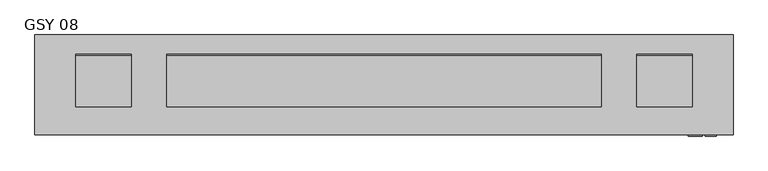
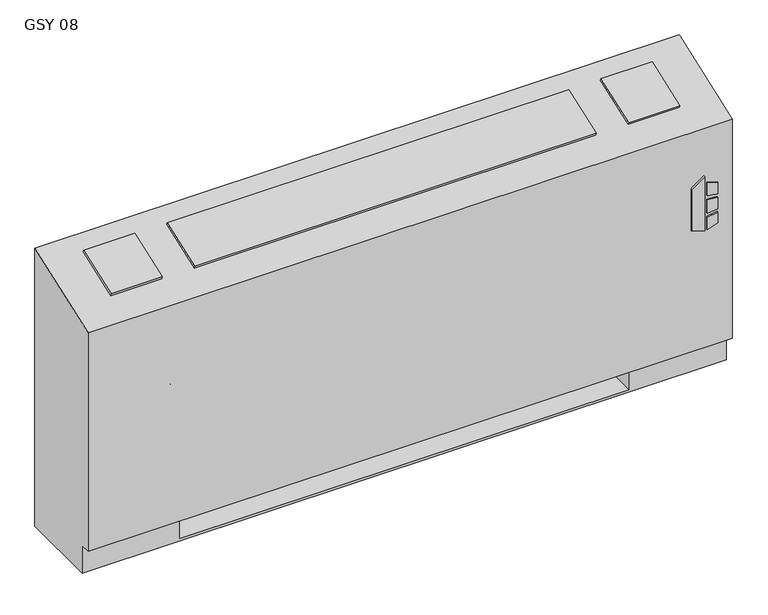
"""IFC4 building model written with IfcOpenShell, lengths in millimetres: proxy geometry, Vertical_Fan_Coil_Unit_-_GSY_-_IEC_-_2-Pipe_TS-FR_LH_2022 : GSY 08."""

from ifc_helpers import new_model, si_unit, point, frame, frame_2d, origin, place, context, project, spatial, polyline, circle_curve, trimmed, segment, composite_curve, outline, extrude, source, transform, mapped, element, save
from ifc_brep_helpers import plane_surface, revolved_surface, advanced_brep


def gsy_08_a798d953(model_context):
    return source(origin(), model_context, "Body", "SolidModel", [
        extrude(outline(polyline([(391.6086829, 849.3868862), (381.6606126, 881.5602728), (523.831537, 881.5602728), (500.8095309, 849.3868862), (391.6086829, 849.3868862)])), frame((0.0, 12.7, 0.0), z_axis=(0.0, 1.0, 0.0), x_axis=(0.0, 0.0, 1.0)), (0.0, 0.0, 1.0), 3.175),
        extrude(outline(polyline([(470.6079683, 888.3186058), (467.4055757, 914.4), (496.6344168, 914.4), (504.6988318, 888.3186058), (470.6079683, 888.3186058)])), frame((0.0, 12.7, 0.0), z_axis=(0.0, 1.0, 0.0), x_axis=(0.0, 0.0, 1.0)), (0.0, 0.0, 1.0), 3.175),
        extrude(outline(polyline([(418.7444414, 914.4), (415.0789404, 888.3186058), (381.6606126, 888.3186058), (390.2948498, 914.4), (418.7444414, 914.4)])), frame((0.0, 12.7, 0.0), z_axis=(0.0, 1.0, 0.0), x_axis=(0.0, 0.0, 1.0)), (0.0, 0.0, 1.0), 3.175),
        extrude(outline(polyline([(458.0596028, 914.4), (460.3414292, 888.3186058), (424.4038806, 888.3186058), (427.1451456, 914.4), (458.0596028, 914.4)])), frame((0.0, 12.7, 0.0), z_axis=(0.0, 1.0, 0.0), x_axis=(0.0, 0.0, 1.0)), (0.0, 0.0, 1.0), 3.175),
        extrude(outline(polyline([(0.0, -126.2347031), (0.0, 0.0), (127.0, 0.0), (127.0, -126.2347031), (0.0, -126.2347031)])), frame((-553.593, 200.4217127, 714.3418685), z_axis=(0.0, -0.33964446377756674, 0.9405538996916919), x_axis=(1.0, 0.0, 0.0)), (0.0, 0.0, 1.0), 6.35),
        extrude(outline(polyline([(0.0, -126.2347031), (0.0, 0.0), (996.95, 0.0), (996.95, -126.2347031), (0.0, -126.2347031)])), frame((650.875, 81.6911704, 671.4669504), z_axis=(0.0, -0.3396444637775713, 0.9405538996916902), x_axis=(-1.0, 0.0, 0.0)), (0.0, 0.0, 1.0), 6.35),
        extrude(outline(polyline([(0.0, -126.2347031), (0.0, 0.0), (127.0, 0.0), (127.0, -126.2347031), (0.0, -126.2347031)])), frame((858.393, 81.6911704, 671.4669504), z_axis=(0.0, -0.3396444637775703, 0.9405538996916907), x_axis=(-1.0, 0.0, 0.0)), (0.0, 0.0, 1.0), 6.35),
        extrude(outline(polyline([(711.2, 81.534), (711.2, 223.266), (831.85, 223.266), (831.85, 81.534), (711.2, 81.534)])), frame((0.0, 0.0, 327.025), z_axis=(0.0, 0.0, 1.0), x_axis=(1.0, 0.0, 0.0)), (0.0, 0.0, 1.0), 260.35),
        extrude(outline(composite_curve([segment(trimmed(circle_curve(frame_2d((80.645, 397.002)), 7.9375), [point((80.645, 404.9395))], [point((80.645, 389.0645))], False, "CARTESIAN"), True, "CONTINUOUS"), segment(trimmed(circle_curve(frame_2d((80.645, 397.002)), 7.9375), [point((80.645, 389.0645))], [point((80.645, 404.9395))], False, "CARTESIAN"), True, "CONTINUOUS")], self_intersect=False)), frame((-457.2, 0.0, 0.0), z_axis=(1.0, 0.0, 0.0), x_axis=(0.0, 1.0, 0.0)), (0.0, 0.0, 1.0), 50.8),
        extrude(outline(composite_curve([segment(trimmed(circle_curve(frame_2d((156.8958, 535.8892)), 7.9375), [point((156.8958, 543.8267))], [point((156.8958, 527.9517))], False, "CARTESIAN"), True, "CONTINUOUS"), segment(trimmed(circle_curve(frame_2d((156.8958, 535.8892)), 7.9375), [point((156.8958, 527.9517))], [point((156.8958, 543.8267))], False, "CARTESIAN"), True, "CONTINUOUS")], self_intersect=False)), frame((-457.2, 0.0, 0.0), z_axis=(1.0, 0.0, 0.0), x_axis=(0.0, 1.0, 0.0)), (0.0, 0.0, 1.0), 50.8),
        advanced_brep(
        [(-647.7, 244.475, 0.0), (952.5, 244.475, 0.0), (952.5, 41.275, 0.0), (-647.7, 41.275, 0.0), (-647.7, 244.475, 730.25), (952.5, 244.475, 730.25), (711.2, 244.475, 73.025), (939.8, 244.475, 73.025), (939.8, 244.475, 654.05), (711.2, 244.475, 654.05), (711.2, 244.475, 414.8650565), (739.775, 244.475, 414.8650565), (739.775, 244.475, 385.2349435), (711.2, 244.475, 385.2349435), (711.2, 244.475, 287.3375), (739.775, 244.475, 287.3375), (739.775, 244.475, 258.7625), (711.2, 244.475, 258.7625), (711.2, 244.475, 141.2875), (739.775, 244.475, 141.2875), (739.775, 244.475, 112.7125), (711.2, 244.475, 112.7125), (-406.4, 244.475, 654.05), (-635.0, 244.475, 654.05), (-635.0, 244.475, 73.025), (-406.4, 244.475, 73.025), (-406.4, 244.475, 112.7125), (-434.975, 244.475, 112.7125), (-434.975, 244.475, 141.2875), (-406.4, 244.475, 141.2875), (-406.4, 244.475, 258.7625), (-434.975, 244.475, 258.7625), (-434.975, 244.475, 287.3375), (-406.4, 244.475, 287.3375), (-406.4, 244.475, 385.2349435), (-434.975, 244.475, 385.2349435), (-434.975, 244.475, 414.8650565), (-406.4, 244.475, 414.8650565), (729.4626, 244.475, 127.0), (718.3374, 244.475, 127.0), (729.4626, 244.475, 400.05), (718.3374, 244.475, 400.05), (729.4626, 244.475, 273.05), (718.3374, 244.475, 273.05), (-413.5374, 244.475, 127.0), (-424.6626, 244.475, 127.0), (-413.5374, 244.475, 273.05), (-424.6626, 244.475, 273.05), (-413.5374, 244.475, 400.05), (-424.6626, 244.475, 400.05), (-647.7, 41.275, 73.025), (-647.7, 15.875, 73.025), (-647.7, 15.875, 647.7), (952.5, 15.875, 73.025), (952.5, 15.875, 647.7), (952.5, 41.275, 73.025), (-406.4, 41.275, 73.025), (-406.4, 225.425, 73.025), (711.2, 225.425, 73.025), (711.2, 41.275, 73.025), (711.2, 41.275, 6.35), (-406.4, 41.275, 6.35), (711.2, 41.275, 654.05), (939.8, 41.275, 654.05), (939.8, 41.275, 73.025), (711.2, 41.275, 73.025), (-406.4, 41.275, 654.05), (-406.4, 41.275, 73.025), (-635.0, 41.275, 73.025), (-635.0, 41.275, 654.05), (711.2, 225.425, 73.025), (711.2, 238.125, 112.7125), (711.2, 238.125, 141.2875), (711.2, 238.125, 258.7625), (711.2, 238.125, 287.3375), (711.2, 238.125, 385.2349435), (711.2, 238.125, 414.8650565), (-406.4, 225.425, 73.025), (-406.4, 238.125, 414.8650565), (-406.4, 238.125, 385.2349435), (-406.4, 238.125, 287.3375), (-406.4, 238.125, 258.7625), (-406.4, 238.125, 141.2875), (-406.4, 238.125, 112.7125), (-406.4, 225.425, 6.35), (711.2, 225.425, 6.35), (739.775, 238.125, 112.7125), (739.775, 238.125, 141.2875), (718.3374, 238.125, 127.0), (729.4626, 238.125, 127.0), (739.775, 238.125, 258.7625), (739.775, 238.125, 287.3375), (718.3374, 238.125, 273.05), (729.4626, 238.125, 273.05), (739.775, 238.125, 385.2349435), (739.775, 238.125, 414.8650565), (718.3374, 238.125, 400.05), (729.4626, 238.125, 400.05), (-434.975, 238.125, 141.2875), (-434.975, 238.125, 112.7125), (-424.6626, 238.125, 127.0), (-413.5374, 238.125, 127.0), (-434.975, 238.125, 287.3375), (-434.975, 238.125, 258.7625), (-424.6626, 238.125, 273.05), (-413.5374, 238.125, 273.05), (-434.975, 238.125, 414.8650565), (-434.975, 238.125, 385.2349435), (-424.6626, 238.125, 400.05), (-413.5374, 238.125, 400.05)],
        [
            (0, 1),
            (1, 2),
            (2, 3),
            (3, 0),
            (0, 4),
            (4, 5),
            (5, 1),
            (6, 7),
            (7, 8),
            (8, 9),
            (9, 10),
            (10, 11),
            (11, 12),
            (12, 13),
            (13, 14),
            (14, 15),
            (15, 16),
            (16, 17),
            (17, 18),
            (18, 19),
            (19, 20),
            (20, 21),
            (21, 6),
            (22, 23),
            (23, 24),
            (24, 25),
            (25, 26),
            (26, 27),
            (27, 28),
            (28, 29),
            (29, 30),
            (30, 31),
            (31, 32),
            (32, 33),
            (33, 34),
            (34, 35),
            (35, 36),
            (36, 37),
            (37, 22),
            (38, 39, circle_curve(frame((723.9, 244.475, 127.0), z_axis=(0.0, -1.0, 0.0), x_axis=(-1.0, 0.0, 0.0)), 5.5626)),
            (39, 38, circle_curve(frame((723.9, 244.475, 127.0), z_axis=(0.0, -1.0, 0.0), x_axis=(-1.0, 0.0, 0.0)), 5.5626)),
            (40, 41, circle_curve(frame((723.9, 244.475, 400.05), z_axis=(0.0, -1.0, 0.0), x_axis=(-1.0, 0.0, 0.0)), 5.5626)),
            (41, 40, circle_curve(frame((723.9, 244.475, 400.05), z_axis=(0.0, -1.0, 0.0), x_axis=(-1.0, 0.0, 0.0)), 5.5626)),
            (42, 43, circle_curve(frame((723.9, 244.475, 273.05), z_axis=(0.0, -1.0, 0.0), x_axis=(-1.0, 0.0, 0.0)), 5.5626)),
            (43, 42, circle_curve(frame((723.9, 244.475, 273.05), z_axis=(0.0, -1.0, 0.0), x_axis=(-1.0, 0.0, 0.0)), 5.5626)),
            (44, 45, circle_curve(frame((-419.1, 244.475, 127.0), z_axis=(0.0, -1.0, 0.0), x_axis=(-1.0, 0.0, 0.0)), 5.5626)),
            (45, 44, circle_curve(frame((-419.1, 244.475, 127.0), z_axis=(0.0, -1.0, 0.0), x_axis=(-1.0, 0.0, 0.0)), 5.5626)),
            (46, 47, circle_curve(frame((-419.1, 244.475, 273.05), z_axis=(0.0, -1.0, 0.0), x_axis=(-1.0, 0.0, 0.0)), 5.5626)),
            (47, 46, circle_curve(frame((-419.1, 244.475, 273.05), z_axis=(0.0, -1.0, 0.0), x_axis=(-1.0, 0.0, 0.0)), 5.5626)),
            (48, 49, circle_curve(frame((-419.1, 244.475, 400.05), z_axis=(0.0, -1.0, 0.0), x_axis=(-1.0, 0.0, 0.0)), 5.5626)),
            (49, 48, circle_curve(frame((-419.1, 244.475, 400.05), z_axis=(0.0, -1.0, 0.0), x_axis=(-1.0, 0.0, 0.0)), 5.5626)),
            (3, 50),
            (50, 51),
            (51, 52),
            (52, 4),
            (51, 53),
            (53, 54),
            (54, 52),
            (5, 54),
            (53, 55),
            (55, 2),
            (50, 56),
            (56, 57),
            (57, 58),
            (58, 59),
            (59, 55),
            (59, 60),
            (60, 61),
            (61, 56),
            (62, 63),
            (63, 64),
            (64, 65),
            (65, 62),
            (66, 67),
            (67, 68),
            (68, 69),
            (69, 66),
            (65, 70),
            (70, 6),
            (21, 71),
            (71, 72),
            (72, 18),
            (17, 73),
            (73, 74),
            (74, 14),
            (13, 75),
            (75, 76),
            (76, 10),
            (9, 62),
            (64, 7),
            (63, 8),
            (69, 23),
            (22, 66),
            (68, 24),
            (67, 77),
            (77, 25),
            (37, 78),
            (78, 79),
            (79, 34),
            (33, 80),
            (80, 81),
            (81, 30),
            (29, 82),
            (82, 83),
            (83, 26),
            (57, 84),
            (84, 85),
            (85, 58),
            (85, 60),
            (84, 61),
            (71, 86),
            (86, 87),
            (87, 72),
            (88, 89, circle_curve(frame((723.9, 238.125, 127.0), z_axis=(0.0, 1.0, 0.0), x_axis=(-1.0, 0.0, 0.0)), 5.5626)),
            (89, 88, circle_curve(frame((723.9, 238.125, 127.0), z_axis=(0.0, 1.0, 0.0), x_axis=(-1.0, 0.0, 0.0)), 5.5626)),
            (73, 90),
            (90, 91),
            (91, 74),
            (92, 93, circle_curve(frame((723.9, 238.125, 273.05), z_axis=(0.0, 1.0, 0.0), x_axis=(-1.0, 0.0, 0.0)), 5.5626)),
            (93, 92, circle_curve(frame((723.9, 238.125, 273.05), z_axis=(0.0, 1.0, 0.0), x_axis=(-1.0, 0.0, 0.0)), 5.5626)),
            (75, 94),
            (94, 95),
            (95, 76),
            (96, 97, circle_curve(frame((723.9, 238.125, 400.05), z_axis=(0.0, 1.0, 0.0), x_axis=(-1.0, 0.0, 0.0)), 5.5626)),
            (97, 96, circle_curve(frame((723.9, 238.125, 400.05), z_axis=(0.0, 1.0, 0.0), x_axis=(-1.0, 0.0, 0.0)), 5.5626)),
            (98, 99),
            (99, 83),
            (82, 98),
            (100, 101, circle_curve(frame((-419.1, 238.125, 127.0), z_axis=(0.0, 1.0, 0.0), x_axis=(-1.0, 0.0, 0.0)), 5.5626)),
            (101, 100, circle_curve(frame((-419.1, 238.125, 127.0), z_axis=(0.0, 1.0, 0.0), x_axis=(-1.0, 0.0, 0.0)), 5.5626)),
            (102, 103),
            (103, 81),
            (80, 102),
            (104, 105, circle_curve(frame((-419.1, 238.125, 273.05), z_axis=(0.0, 1.0, 0.0), x_axis=(-1.0, 0.0, 0.0)), 5.5626)),
            (105, 104, circle_curve(frame((-419.1, 238.125, 273.05), z_axis=(0.0, 1.0, 0.0), x_axis=(-1.0, 0.0, 0.0)), 5.5626)),
            (106, 107),
            (107, 79),
            (78, 106),
            (108, 109, circle_curve(frame((-419.1, 238.125, 400.05), z_axis=(0.0, 1.0, 0.0), x_axis=(-1.0, 0.0, 0.0)), 5.5626)),
            (109, 108, circle_curve(frame((-419.1, 238.125, 400.05), z_axis=(0.0, 1.0, 0.0), x_axis=(-1.0, 0.0, 0.0)), 5.5626)),
            (87, 19),
            (86, 20),
            (91, 15),
            (90, 16),
            (95, 11),
            (94, 12),
            (28, 98),
            (99, 27),
            (32, 102),
            (103, 31),
            (36, 106),
            (107, 35),
            (88, 39),
            (38, 89),
            (96, 41),
            (40, 97),
            (92, 43),
            (42, 93),
            (100, 45),
            (44, 101),
            (104, 47),
            (46, 105),
            (108, 49),
            (48, 109),
        ],
        [
            plane_surface(frame((-647.7, 244.475, 0.0), z_axis=(0.0, 0.0, -1.0), x_axis=(1.0, 0.0, 0.0))),
            plane_surface(frame((952.5, 244.475, 730.25), z_axis=(0.0, 1.0, 0.0), x_axis=(0.0, 0.0, -1.0))),
            plane_surface(frame((-647.7, 244.475, 730.25), z_axis=(-1.0, 0.0, 0.0), x_axis=(0.0, 0.0, -1.0))),
            plane_surface(frame((-647.7, 15.875, 730.25), z_axis=(0.0, -1.0, 0.0), x_axis=(0.0, 0.0, -1.0))),
            plane_surface(frame((952.5, 15.875, 730.25), z_axis=(1.0, 0.0, 0.0), x_axis=(0.0, 0.0, -1.0))),
            plane_surface(frame((-647.7, 15.875, 73.025), z_axis=(0.0, 0.0, -1.0), x_axis=(1.0, 0.0, 0.0))),
            plane_surface(frame((-647.7, 41.275, 73.025), z_axis=(0.0, -1.0, 0.0), x_axis=(1.0, 0.0, 0.0))),
            plane_surface(frame((711.2, 41.275, 654.05), z_axis=(0.0, 1.0, 0.0), x_axis=(0.0, 0.0, -1.0))),
            plane_surface(frame((711.2, 41.275, 654.05), z_axis=(1.0, 0.0, 0.0), x_axis=(0.0, 1.0, 0.0))),
            plane_surface(frame((711.2, 41.275, 73.025), z_axis=(0.0, 0.0, 1.0), x_axis=(0.0, 1.0, 0.0))),
            plane_surface(frame((939.8, 41.275, 73.025), z_axis=(-1.0, 0.0, 0.0), x_axis=(0.0, 1.0, 0.0))),
            plane_surface(frame((939.8, 41.275, 654.05), z_axis=(0.0, 0.0, -1.0), x_axis=(0.0, 1.0, 0.0))),
            plane_surface(frame((-406.4, 41.275, 654.05), z_axis=(0.0, 0.0, -1.0), x_axis=(0.0, 1.0, 0.0))),
            plane_surface(frame((-635.0, 41.275, 654.05), z_axis=(1.0, 0.0, 0.0), x_axis=(0.0, 1.0, 0.0))),
            plane_surface(frame((-635.0, 41.275, 73.025), z_axis=(0.0, 0.0, 1.0), x_axis=(0.0, 1.0, 0.0))),
            plane_surface(frame((-406.4, 41.275, 73.025), z_axis=(-1.0, 0.0, 0.0), x_axis=(0.0, 1.0, 0.0))),
            plane_surface(frame((711.2, 225.425, 73.025), z_axis=(0.0, -1.0, 0.0), x_axis=(0.0, 0.0, -1.0))),
            plane_surface(frame((711.2, 225.425, 73.025), z_axis=(-1.0, 0.0, 0.0), x_axis=(0.0, -1.0, 0.0))),
            plane_surface(frame((711.2, 225.425, 6.35), z_axis=(0.0, 0.0, 1.0), x_axis=(0.0, -1.0, 0.0))),
            plane_surface(frame((-406.4, 225.425, 6.35), z_axis=(1.0, 0.0, 0.0), x_axis=(0.0, -1.0, 0.0))),
            plane_surface(frame((739.775, 238.125, 141.2875), z_axis=(0.0, -1.0, 0.0), x_axis=(-1.0, 0.0, 0.0))),
            plane_surface(frame((711.2, 244.475, 141.2875), z_axis=(0.0, 0.0, 1.0), x_axis=(0.0, -1.0, 0.0))),
            plane_surface(frame((739.775, 244.475, 141.2875), z_axis=(1.0, 0.0, 0.0), x_axis=(0.0, -1.0, 0.0))),
            plane_surface(frame((739.775, 244.475, 112.7125), z_axis=(0.0, 0.0, -1.0), x_axis=(0.0, -1.0, 0.0))),
            plane_surface(frame((711.2, 244.475, 287.3375), z_axis=(0.0, 0.0, 1.0), x_axis=(0.0, -1.0, 0.0))),
            plane_surface(frame((739.775, 244.475, 287.3375), z_axis=(1.0, 0.0, 0.0), x_axis=(0.0, -1.0, 0.0))),
            plane_surface(frame((739.775, 244.475, 258.7625), z_axis=(0.0, 0.0, -1.0), x_axis=(0.0, -1.0, 0.0))),
            plane_surface(frame((711.2, 244.475, 414.8650565), z_axis=(0.0, 0.0, 1.0), x_axis=(0.0, -1.0, 0.0))),
            plane_surface(frame((739.775, 244.475, 414.8650565), z_axis=(1.0, 0.0, 0.0), x_axis=(0.0, -1.0, 0.0))),
            plane_surface(frame((739.775, 244.475, 385.2349435), z_axis=(0.0, 0.0, -1.0), x_axis=(0.0, -1.0, 0.0))),
            plane_surface(frame((-434.975, 244.475, 141.2875), z_axis=(0.0, 0.0, 1.0), x_axis=(0.0, -1.0, 0.0))),
            plane_surface(frame((-406.4, 244.475, 112.7125), z_axis=(0.0, 0.0, -1.0), x_axis=(0.0, -1.0, 0.0))),
            plane_surface(frame((-434.975, 244.475, 112.7125), z_axis=(-1.0, 0.0, 0.0), x_axis=(0.0, -1.0, 0.0))),
            plane_surface(frame((-434.975, 244.475, 287.3375), z_axis=(0.0, 0.0, 1.0), x_axis=(0.0, -1.0, 0.0))),
            plane_surface(frame((-406.4, 244.475, 258.7625), z_axis=(0.0, 0.0, -1.0), x_axis=(0.0, -1.0, 0.0))),
            plane_surface(frame((-434.975, 244.475, 258.7625), z_axis=(-1.0, 0.0, 0.0), x_axis=(0.0, -1.0, 0.0))),
            plane_surface(frame((-434.975, 244.475, 414.8650565), z_axis=(0.0, 0.0, 1.0), x_axis=(0.0, -1.0, 0.0))),
            plane_surface(frame((-406.4, 244.475, 385.2349435), z_axis=(0.0, 0.0, -1.0), x_axis=(0.0, -1.0, 0.0))),
            plane_surface(frame((-434.975, 244.475, 385.2349435), z_axis=(-1.0, 0.0, 0.0), x_axis=(0.0, -1.0, 0.0))),
            revolved_surface(polyline([(718.3374, 238.125, 127.0), (718.3374, 244.475, 127.0)]), (723.9, 244.475, 127.0), (0.0, -1.0, 0.0)),
            revolved_surface(polyline([(718.3374, 238.125, 400.05), (718.3374, 244.475, 400.05)]), (723.9, 244.475, 400.05), (0.0, -1.0, 0.0)),
            revolved_surface(polyline([(718.3374, 238.125, 273.05), (718.3374, 244.475, 273.05)]), (723.9, 244.475, 273.05), (0.0, -1.0, 0.0)),
            revolved_surface(polyline([(-424.6626, 238.125, 127.0), (-424.6626, 244.475, 127.0)]), (-419.1, 244.475, 127.0), (0.0, -1.0, 0.0)),
            revolved_surface(polyline([(-424.6626, 238.125, 273.05), (-424.6626, 244.475, 273.05)]), (-419.1, 244.475, 273.05), (0.0, -1.0, 0.0)),
            revolved_surface(polyline([(-424.6626, 238.125, 400.05), (-424.6626, 244.475, 400.05)]), (-419.1, 244.475, 400.05), (0.0, -1.0, 0.0)),
            plane_surface(frame((-647.7, 244.475, 730.25), z_axis=(0.0, -0.33964446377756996, 0.9405538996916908), x_axis=(1.0, 0.0, 0.0))),
        ],
        [
            (0, [[1, 2, 3, 4]]),
            (1, [[-1, 5, 6, 7], [8, 9, 10, 11, 12, 13, 14, 15, 16, 17, 18, 19, 20, 21, 22, 23], [24, 25, 26, 27, 28, 29, 30, 31, 32, 33, 34, 35, 36, 37, 38, 39], [40, 41], [42, 43], [44, 45], [46, 47], [48, 49], [50, 51]]),
            (2, [[-5, -4, 52, 53, 54, 55]]),
            (3, [[56, 57, 58, -54]]),
            (4, [[-7, 59, -57, 60, 61, -2]]),
            (5, [[-53, 62, 63, 64, 65, 66, -60, -56]]),
            (6, [[-3, -61, -66, 67, 68, 69, -62, -52]]),
            (7, [[70, 71, 72, 73]]),
            (7, [[74, 75, 76, 77]]),
            (8, [[-73, 78, 79, -23, 80, 81, 82, -19, 83, 84, 85, -15, 86, 87, 88, -11, 89]]),
            (9, [[-72, 90, -8, -79, -78]]),
            (10, [[-71, 91, -9, -90]]),
            (11, [[-70, -89, -10, -91]]),
            (12, [[-77, 92, -24, 93]]),
            (13, [[-76, 94, -25, -92]]),
            (14, [[-75, 95, 96, -26, -94]]),
            (15, [[-74, -93, -39, 97, 98, 99, -35, 100, 101, 102, -31, 103, 104, 105, -27, -96, -95]]),
            (16, [[-64, 106, 107, 108]]),
            (17, [[-108, 109, -67, -65]]),
            (18, [[-107, 110, -68, -109]]),
            (19, [[-106, -63, -69, -110]]),
            (20, [[111, 112, 113, -81], [114, 115]]),
            (20, [[116, 117, 118, -84], [119, 120]]),
            (20, [[121, 122, 123, -87], [124, 125]]),
            (20, [[126, 127, -104, 128], [129, 130]]),
            (20, [[131, 132, -101, 133], [134, 135]]),
            (20, [[136, 137, -98, 138], [139, 140]]),
            (21, [[-113, 141, -20, -82]]),
            (22, [[-112, 142, -21, -141]]),
            (23, [[-111, -80, -22, -142]]),
            (24, [[-118, 143, -16, -85]]),
            (25, [[-117, 144, -17, -143]]),
            (26, [[-116, -83, -18, -144]]),
            (27, [[-123, 145, -12, -88]]),
            (28, [[-122, 146, -13, -145]]),
            (29, [[-121, -86, -14, -146]]),
            (30, [[-128, -103, -30, 147]]),
            (31, [[-127, 148, -28, -105]]),
            (32, [[-126, -147, -29, -148]]),
            (33, [[-133, -100, -34, 149]]),
            (34, [[-132, 150, -32, -102]]),
            (35, [[-131, -149, -33, -150]]),
            (36, [[-138, -97, -38, 151]]),
            (37, [[-137, 152, -36, -99]]),
            (38, [[-136, -151, -37, -152]]),
            (39, [[153, -40, 154, -114]]),
            (39, [[-153, -115, -154, -41]]),
            (40, [[155, -42, 156, -124]]),
            (40, [[-155, -125, -156, -43]]),
            (41, [[157, -44, 158, -119]]),
            (41, [[-157, -120, -158, -45]]),
            (42, [[159, -46, 160, -129]]),
            (42, [[-159, -130, -160, -47]]),
            (43, [[161, -48, 162, -134]]),
            (43, [[-161, -135, -162, -49]]),
            (44, [[163, -50, 164, -139]]),
            (44, [[-163, -140, -164, -51]]),
            (45, [[-6, -55, -58, -59]]),
        ],
    ),
    ])


if __name__ == "__main__":
    model = new_model("IFC4")
    model_context = context("Model", 3, world=origin())
    ifc_project = project(units=[si_unit("LENGTHUNIT", "METRE", prefix="MILLI")], contexts=[model_context])
    site = spatial("IfcSite", under=ifc_project)
    building = spatial("IfcBuilding", under=site)
    placement = place(None, origin())
    gsy_08_shape = gsy_08_a798d953(model_context)
    element("IfcBuildingElementProxy", 1, Name="Vertical_Fan_Coil_Unit_-_GSY_-_IEC_-_2-Pipe_TS-FR_LH_2022 : GSY 08", ObjectType="Vertical_Fan_Coil_Unit_-_GSY_-_IEC_-_2-Pipe_TS-FR_LH_2022 : GSY 08", at=placement, inside=building, context=model_context, shape_type="MappedRepresentation", body=[
        mapped(gsy_08_shape, transform((0.0, 0.0, 0.0), x_axis=(1.0, 0.0, 0.0), y_axis=(0.0, 1.0, 0.0), z_axis=(0.0, 0.0, 1.0))),
    ])
    save(model, "model.ifc")
